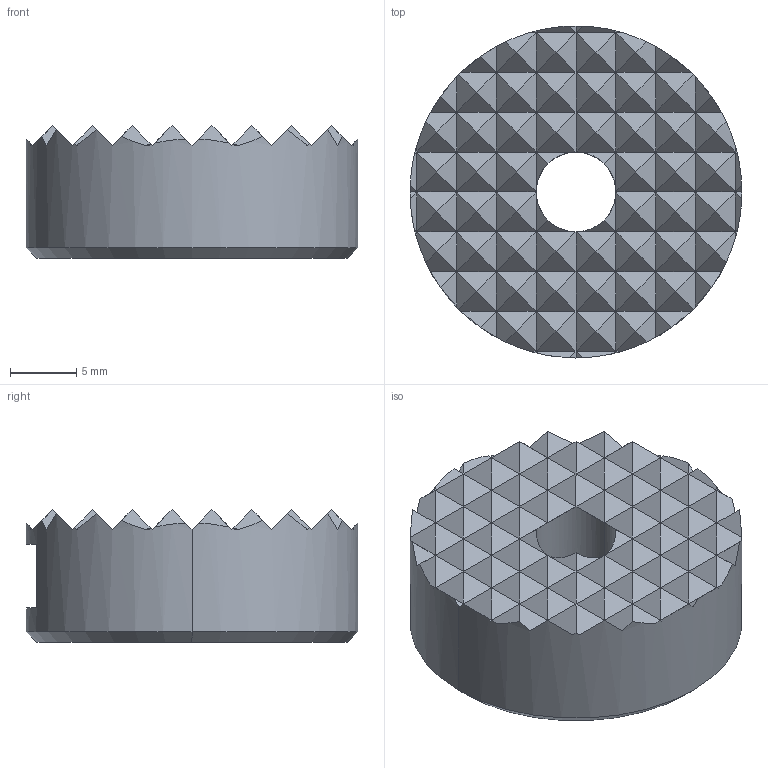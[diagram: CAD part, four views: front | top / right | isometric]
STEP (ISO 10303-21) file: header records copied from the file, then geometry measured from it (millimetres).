
FILE_DESCRIPTION (( 'STEP AP203' ), '1' );
FILE_NAME ('hs-250.STEP', '2021-10-26T01:17:05', ( '' ), ( '' ), 'SwSTEP 2.0', 'SolidWorks 2020', '' );
FILE_SCHEMA (( 'CONFIG_CONTROL_DESIGN' ));
Length unit declared in the file: millimetre
Products named in the file (1): hs-250
Bounding box: 25 x 25 x 10 mm (x, y, z)
Volume: 4110.1 mm3; surface area: 1948.4 mm2
Topology: 1 solids, 1 shells, 268 faces, 466 edges, 200 vertices
Faces by surface type: plane 260, cone 4, cylinder 4
Entity records: 5905 total; most frequent: CARTESIAN_POINT 1199, ORIENTED_EDGE 932, DIRECTION 926, EDGE_CURVE 466, LINE 368, VECTOR 368, AXIS2_PLACEMENT_3D 279, EDGE_LOOP 270
